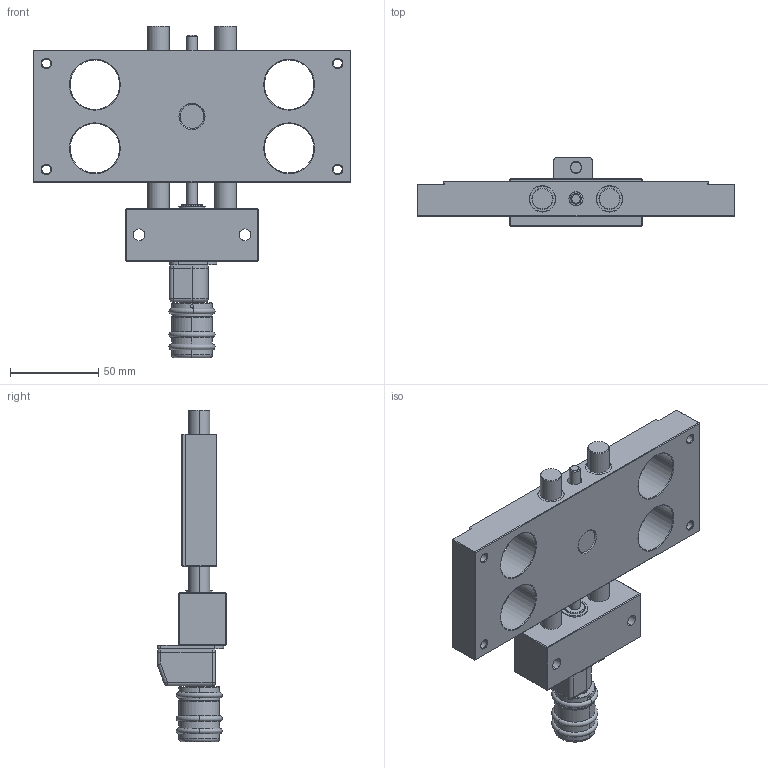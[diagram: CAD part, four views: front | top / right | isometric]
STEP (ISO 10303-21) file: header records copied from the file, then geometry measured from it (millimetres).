
FILE_DESCRIPTION (( 'STEP AP203' ), '1' );
FILE_NAME ('KT2512-L-PA-Kreuztisch.STEP', '2016-01-15T16:58:15', ( '' ), ( '' ), 'SwSTEP 2.0', 'SolidWorks 2014', '' );
FILE_SCHEMA (( 'CONFIG_CONTROL_DESIGN' ));
Length unit declared in the file: millimetre
Products named in the file (4): PA0812-PTHT-000-Positionsanzeiger-komplett_n_Standard; KT12-000-03-L-Schlitten-komplett; KT2512-L-PA-Kreuztisch; PT2512-000-01-Festteil-PA(E)
Assembly tree (3 placements, depth 2):
  KT2512-L-PA-Kreuztisch
    PT2512-000-01-Festteil-PA(E)
    PA0812-PTHT-000-Positionsanzeiger-komplett_n_Standard
    KT12-000-03-L-Schlitten-komplett
Bounding box: 180 x 39.2 x 187.53 mm (x, y, z)
Volume: 302543.5 mm3; surface area: 81031.6 mm2
Topology: 5 solids, 5 shells, 469 faces, 1086 edges, 668 vertices
Faces by surface type: plane 179, cylinder 165, cone 97, torus 15, sphere 7, bspline 6
Entity records: 14495 total; most frequent: CARTESIAN_POINT 3102, DIRECTION 2442, ORIENTED_EDGE 2158, EDGE_CURVE 1079, AXIS2_PLACEMENT_3D 938, VERTEX_POINT 668, VECTOR 566, LINE 566
